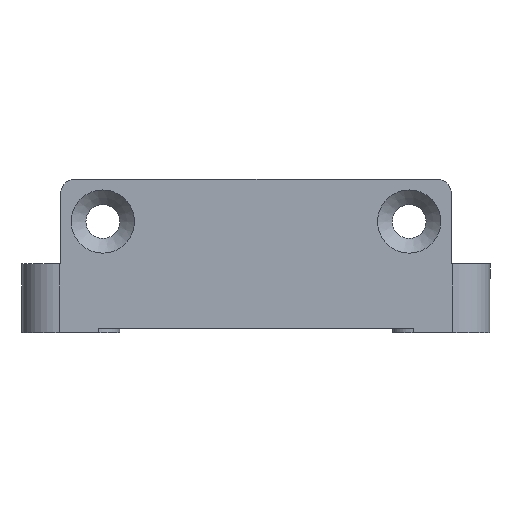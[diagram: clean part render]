
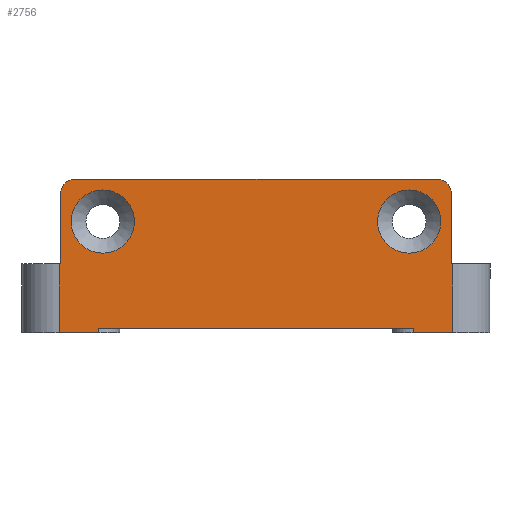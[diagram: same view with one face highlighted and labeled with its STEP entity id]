
A CAD part, left-side view. The second image highlights one B-rep face of the part: STEP entity #2756.
In plain terms, the highlighted planar face has unit normal (-1, 0, 0).
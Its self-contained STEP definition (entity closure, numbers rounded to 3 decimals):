
#21=FACE_BOUND('',#343,.T.);
#22=FACE_BOUND('',#344,.T.);
#41=PLANE('',#2943);
#192=FACE_OUTER_BOUND('',#342,.T.);
#342=EDGE_LOOP('',(#1997,#1998,#1999,#2000,#2001,#2002,#2003,#2004,#2005,
#2006,#2007,#2008,#2009,#2010));
#343=EDGE_LOOP('',(#2011));
#344=EDGE_LOOP('',(#2012));
#528=LINE('',#4164,#817);
#533=LINE('',#4179,#822);
#534=LINE('',#4182,#823);
#535=LINE('',#4184,#824);
#536=LINE('',#4186,#825);
#537=LINE('',#4188,#826);
#538=LINE('',#4190,#827);
#539=LINE('',#4192,#828);
#540=LINE('',#4196,#829);
#541=LINE('',#4200,#830);
#542=LINE('',#4202,#831);
#543=LINE('',#4203,#832);
#817=VECTOR('',#3302,10.);
#822=VECTOR('',#3317,10.);
#823=VECTOR('',#3320,10.);
#824=VECTOR('',#3321,10.);
#825=VECTOR('',#3322,10.);
#826=VECTOR('',#3323,10.);
#827=VECTOR('',#3324,10.);
#828=VECTOR('',#3325,10.);
#829=VECTOR('',#3328,10.);
#830=VECTOR('',#3331,10.);
#831=VECTOR('',#3332,10.);
#832=VECTOR('',#3333,10.);
#1071=CIRCLE('',#2914,2.25);
#1074=CIRCLE('',#2919,2.25);
#1090=CIRCLE('',#2944,1.);
#1091=CIRCLE('',#2945,1.);
#1227=VERTEX_POINT('',#4096);
#1230=VERTEX_POINT('',#4106);
#1252=VERTEX_POINT('',#4161);
#1253=VERTEX_POINT('',#4163);
#1258=VERTEX_POINT('',#4177);
#1259=VERTEX_POINT('',#4181);
#1260=VERTEX_POINT('',#4183);
#1261=VERTEX_POINT('',#4185);
#1262=VERTEX_POINT('',#4187);
#1263=VERTEX_POINT('',#4189);
#1264=VERTEX_POINT('',#4191);
#1265=VERTEX_POINT('',#4193);
#1266=VERTEX_POINT('',#4195);
#1267=VERTEX_POINT('',#4197);
#1268=VERTEX_POINT('',#4199);
#1269=VERTEX_POINT('',#4201);
#1510=EDGE_CURVE('',#1227,#1227,#1071,.T.);
#1515=EDGE_CURVE('',#1230,#1230,#1074,.T.);
#1543=EDGE_CURVE('',#1253,#1252,#528,.T.);
#1551=EDGE_CURVE('',#1258,#1252,#533,.T.);
#1552=EDGE_CURVE('',#1258,#1259,#534,.T.);
#1553=EDGE_CURVE('',#1260,#1259,#535,.T.);
#1554=EDGE_CURVE('',#1260,#1261,#536,.T.);
#1555=EDGE_CURVE('',#1261,#1262,#537,.T.);
#1556=EDGE_CURVE('',#1263,#1262,#538,.T.);
#1557=EDGE_CURVE('',#1263,#1264,#539,.T.);
#1558=EDGE_CURVE('',#1264,#1265,#1090,.T.);
#1559=EDGE_CURVE('',#1265,#1266,#540,.T.);
#1560=EDGE_CURVE('',#1267,#1266,#1091,.T.);
#1561=EDGE_CURVE('',#1268,#1267,#541,.T.);
#1562=EDGE_CURVE('',#1269,#1268,#542,.T.);
#1563=EDGE_CURVE('',#1253,#1269,#543,.T.);
#1997=ORIENTED_EDGE('',*,*,#1551,.F.);
#1998=ORIENTED_EDGE('',*,*,#1552,.T.);
#1999=ORIENTED_EDGE('',*,*,#1553,.F.);
#2000=ORIENTED_EDGE('',*,*,#1554,.T.);
#2001=ORIENTED_EDGE('',*,*,#1555,.T.);
#2002=ORIENTED_EDGE('',*,*,#1556,.F.);
#2003=ORIENTED_EDGE('',*,*,#1557,.T.);
#2004=ORIENTED_EDGE('',*,*,#1558,.T.);
#2005=ORIENTED_EDGE('',*,*,#1559,.T.);
#2006=ORIENTED_EDGE('',*,*,#1560,.F.);
#2007=ORIENTED_EDGE('',*,*,#1561,.F.);
#2008=ORIENTED_EDGE('',*,*,#1562,.F.);
#2009=ORIENTED_EDGE('',*,*,#1563,.F.);
#2010=ORIENTED_EDGE('',*,*,#1543,.T.);
#2011=ORIENTED_EDGE('',*,*,#1510,.T.);
#2012=ORIENTED_EDGE('',*,*,#1515,.T.);
#2756=ADVANCED_FACE('',(#192,#21,#22),#41,.T.);
#2914=AXIS2_PLACEMENT_3D('',#4097,#3237,#3238);
#2919=AXIS2_PLACEMENT_3D('',#4107,#3249,#3250);
#2943=AXIS2_PLACEMENT_3D('',#4180,#3318,#3319);
#2944=AXIS2_PLACEMENT_3D('',#4194,#3326,#3327);
#2945=AXIS2_PLACEMENT_3D('',#4198,#3329,#3330);
#3237=DIRECTION('center_axis',(1.,0.,0.));
#3238=DIRECTION('ref_axis',(0.,-1.,0.));
#3249=DIRECTION('center_axis',(1.,0.,0.));
#3250=DIRECTION('ref_axis',(0.,-1.,0.));
#3302=DIRECTION('',(0.,-1.,0.));
#3317=DIRECTION('',(0.,0.,-1.));
#3318=DIRECTION('center_axis',(-1.,0.,
0.));
#3319=DIRECTION('ref_axis',(0.,-1.,0.));
#3320=DIRECTION('',(0.,-1.,0.));
#3321=DIRECTION('',(0.,0.,1.));
#3322=DIRECTION('',(0.,-1.,0.));
#3323=DIRECTION('',(0.,0.,1.));
#3324=DIRECTION('',(0.,-1.,0.));
#3325=DIRECTION('',(0.,0.,1.));
#3326=DIRECTION('center_axis',(-1.,0.,
0.));
#3327=DIRECTION('ref_axis',(0.,-0.707,0.707));
#3328=DIRECTION('',(0.,1.,0.));
#3329=DIRECTION('center_axis',(1.,0.,0.));
#3330=DIRECTION('ref_axis',(0.,0.707,0.707));
#3331=DIRECTION('',(0.,0.,1.));
#3332=DIRECTION('',(0.,-1.,0.));
#3333=DIRECTION('',(0.,0.,1.));
#4096=CARTESIAN_POINT('',(21.65,14.85,7.9));
#4097=CARTESIAN_POINT('Origin',(21.65,12.6,7.9));
#4106=CARTESIAN_POINT('',(21.65,36.65,7.9));
#4107=CARTESIAN_POINT('Origin',(21.65,34.4,7.9));
#4161=CARTESIAN_POINT('',(21.65,34.698,0.));
#4163=CARTESIAN_POINT('',(21.65,37.5,0.));
#4164=CARTESIAN_POINT('',(21.65,37.5,0.));
#4177=CARTESIAN_POINT('',(21.65,34.698,0.3));
#4179=CARTESIAN_POINT('',(21.65,34.698,0.));
#4180=CARTESIAN_POINT('Origin',(21.65,37.5,0.));
#4181=CARTESIAN_POINT('',(21.65,12.299,0.3));
#4182=CARTESIAN_POINT('',(21.65,30.5,0.3));
#4183=CARTESIAN_POINT('',(21.65,12.299,0.));
#4184=CARTESIAN_POINT('',(21.65,12.299,0.));
#4185=CARTESIAN_POINT('',(21.65,9.5,0.));
#4186=CARTESIAN_POINT('',(21.65,37.5,0.));
#4187=CARTESIAN_POINT('',(21.65,9.5,4.9));
#4188=CARTESIAN_POINT('',(21.65,9.5,0.));
#4189=CARTESIAN_POINT('',(21.65,9.6,4.9));
#4190=CARTESIAN_POINT('',(21.65,30.5,4.9));
#4191=CARTESIAN_POINT('',(21.65,9.6,9.9));
#4192=CARTESIAN_POINT('',(21.65,9.6,2.45));
#4193=CARTESIAN_POINT('',(21.65,10.6,10.9));
#4194=CARTESIAN_POINT('Origin',(21.65,10.6,9.9));
#4195=CARTESIAN_POINT('',(21.65,36.4,10.9));
#4196=CARTESIAN_POINT('',(21.65,30.5,10.9));
#4197=CARTESIAN_POINT('',(21.65,37.4,9.9));
#4198=CARTESIAN_POINT('Origin',(21.65,36.4,9.9));
#4199=CARTESIAN_POINT('',(21.65,37.4,4.9));
#4200=CARTESIAN_POINT('',(21.65,37.4,2.45));
#4201=CARTESIAN_POINT('',(21.65,37.5,4.9));
#4202=CARTESIAN_POINT('',(21.65,30.5,4.9));
#4203=CARTESIAN_POINT('',(21.65,37.5,0.));
